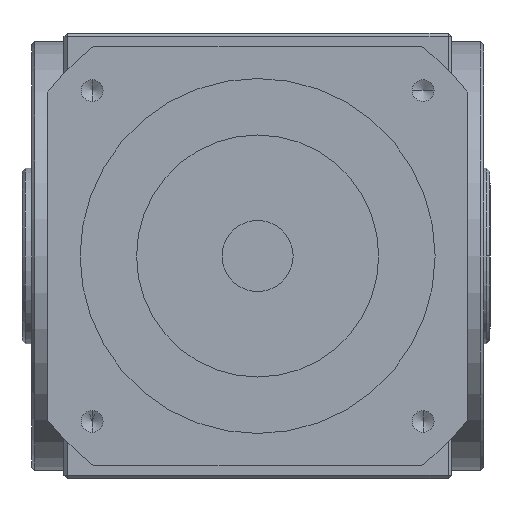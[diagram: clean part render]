
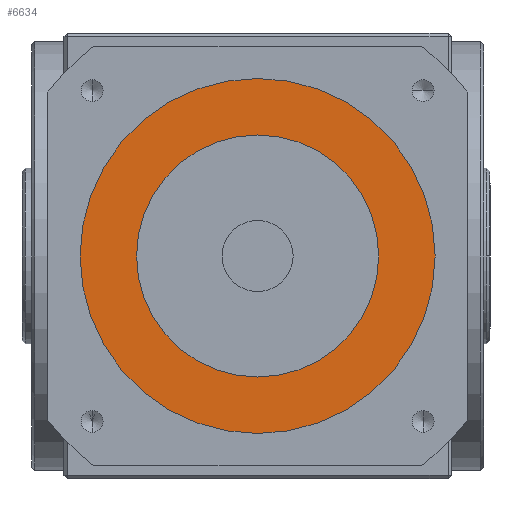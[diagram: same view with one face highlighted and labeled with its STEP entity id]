
A CAD part, front view. The second image highlights one B-rep face of the part: STEP entity #6634.
In plain terms, the highlighted planar face has unit normal (0, -1, 0).
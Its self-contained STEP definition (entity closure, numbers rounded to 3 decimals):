
#171 = AXIS2_PLACEMENT_3D ( 'NONE', #7706, #7645, #7611 ) ;
#624 = VERTEX_POINT ( 'NONE', #7838 ) ;
#627 = DIRECTION ( 'NONE',  ( 0., 0., -1. ) ) ;
#659 = DIRECTION ( 'NONE',  ( 0., -1., 0. ) ) ;
#701 = CARTESIAN_POINT ( 'NONE',  ( 0., -239., 0. ) ) ;
#999 = CIRCLE ( 'NONE', #7103, 37.5 ) ;
#1181 = CIRCLE ( 'NONE', #4750, 37.5 ) ;
#1333 = EDGE_CURVE ( 'NONE', #3657, #624, #8812, .T. ) ;
#2162 = AXIS2_PLACEMENT_3D ( 'NONE', #7058, #3370, #5152 ) ;
#2254 = EDGE_CURVE ( 'NONE', #3428, #8634, #999, .T. ) ;
#2931 = DIRECTION ( 'NONE',  ( 0., 0., -1. ) ) ;
#2936 = CARTESIAN_POINT ( 'NONE',  ( 0., -239., 37.5 ) ) ;
#2973 = DIRECTION ( 'NONE',  ( 0., 1., 0. ) ) ;
#3087 = CARTESIAN_POINT ( 'NONE',  ( 0., -239., 0. ) ) ;
#3370 = DIRECTION ( 'NONE',  ( 0., -1., 0. ) ) ;
#3397 = ORIENTED_EDGE ( 'NONE', *, *, #2254, .T. ) ;
#3428 = VERTEX_POINT ( 'NONE', #4056 ) ;
#3464 = PLANE ( 'NONE',  #2162 ) ;
#3657 = VERTEX_POINT ( 'NONE', #8392 ) ;
#4019 = EDGE_LOOP ( 'NONE', ( #3397, #4544 ) ) ;
#4056 = CARTESIAN_POINT ( 'NONE',  ( 0., -239., -37.5 ) ) ;
#4487 = FACE_OUTER_BOUND ( 'NONE', #7437, .T. ) ;
#4544 = ORIENTED_EDGE ( 'NONE', *, *, #6435, .T. ) ;
#4750 = AXIS2_PLACEMENT_3D ( 'NONE', #7142, #9552, #7557 ) ;
#4842 = AXIS2_PLACEMENT_3D ( 'NONE', #701, #659, #627 ) ;
#5152 = DIRECTION ( 'NONE',  ( 0., 0., -1. ) ) ;
#5553 = EDGE_CURVE ( 'NONE', #624, #3657, #8425, .T. ) ;
#6435 = EDGE_CURVE ( 'NONE', #8634, #3428, #1181, .T. ) ;
#6462 = ORIENTED_EDGE ( 'NONE', *, *, #1333, .T. ) ;
#6518 = FACE_BOUND ( 'NONE', #4019, .T. ) ;
#6634 = ADVANCED_FACE ( 'NONE', ( #6518, #4487 ), #3464, .T. ) ;
#7058 = CARTESIAN_POINT ( 'NONE',  ( 0., -239., 0. ) ) ;
#7103 = AXIS2_PLACEMENT_3D ( 'NONE', #3087, #2973, #2931 ) ;
#7142 = CARTESIAN_POINT ( 'NONE',  ( 0., -239., 0. ) ) ;
#7437 = EDGE_LOOP ( 'NONE', ( #6462, #9184 ) ) ;
#7557 = DIRECTION ( 'NONE',  ( 0., 0., -1. ) ) ;
#7611 = DIRECTION ( 'NONE',  ( 0., 0., -1. ) ) ;
#7645 = DIRECTION ( 'NONE',  ( 0., -1., 0. ) ) ;
#7706 = CARTESIAN_POINT ( 'NONE',  ( 0., -239., 0. ) ) ;
#7838 = CARTESIAN_POINT ( 'NONE',  ( 0., -239., 55. ) ) ;
#8392 = CARTESIAN_POINT ( 'NONE',  ( 0., -239., -55. ) ) ;
#8425 = CIRCLE ( 'NONE', #4842, 55. ) ;
#8634 = VERTEX_POINT ( 'NONE', #2936 ) ;
#8812 = CIRCLE ( 'NONE', #171, 55. ) ;
#9184 = ORIENTED_EDGE ( 'NONE', *, *, #5553, .T. ) ;
#9552 = DIRECTION ( 'NONE',  ( 0., 1., 0. ) ) ;
